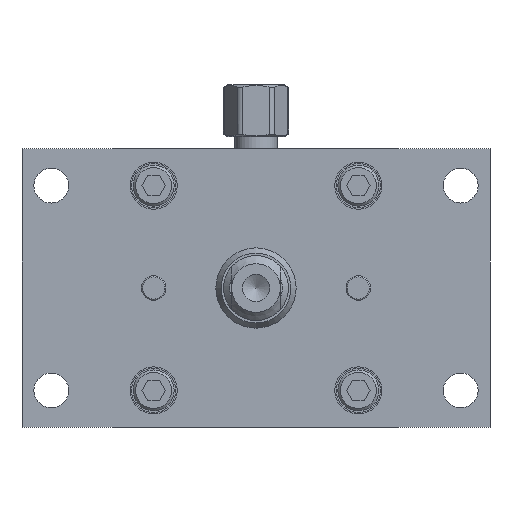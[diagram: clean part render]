
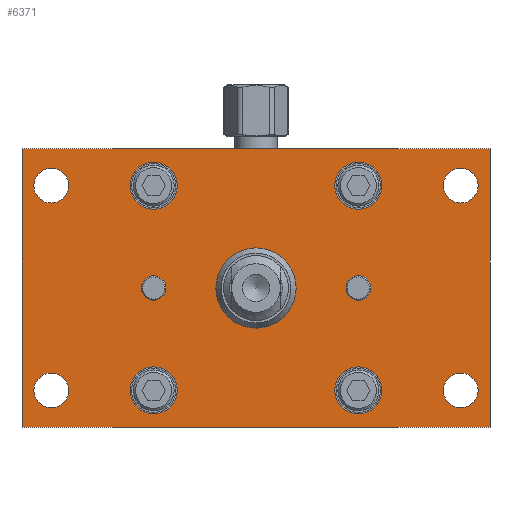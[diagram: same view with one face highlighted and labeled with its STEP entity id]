
A CAD part, front view. The second image highlights one B-rep face of the part: STEP entity #6371.
In plain terms, the highlighted planar face has unit normal (0, -1, 0) as drawn and (0, 0, -1) by its records, which use the part's own axes.
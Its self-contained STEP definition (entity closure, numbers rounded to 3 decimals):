
#184=FACE_BOUND('',#2256,.T.);
#185=FACE_BOUND('',#2257,.T.);
#186=FACE_BOUND('',#2258,.T.);
#187=FACE_BOUND('',#2259,.T.);
#188=FACE_BOUND('',#2260,.T.);
#189=FACE_BOUND('',#2261,.T.);
#190=FACE_BOUND('',#2262,.T.);
#191=FACE_BOUND('',#2263,.T.);
#192=FACE_BOUND('',#2264,.T.);
#193=FACE_BOUND('',#2265,.T.);
#194=FACE_BOUND('',#2266,.T.);
#537=PLANE('',#7208);
#934=LINE('',#10892,#1415);
#937=LINE('',#10897,#1418);
#939=LINE('',#10901,#1420);
#941=LINE('',#10904,#1422);
#1415=VECTOR('',#8716,10.);
#1418=VECTOR('',#8721,10.);
#1420=VECTOR('',#8725,10.);
#1422=VECTOR('',#8729,10.);
#1880=FACE_OUTER_BOUND('',#2255,.T.);
#2255=EDGE_LOOP('',(#5469,#5470,#5471,#5472));
#2256=EDGE_LOOP('',(#5473));
#2257=EDGE_LOOP('',(#5474,#5475));
#2258=EDGE_LOOP('',(#5476,#5477));
#2259=EDGE_LOOP('',(#5478,#5479));
#2260=EDGE_LOOP('',(#5480,#5481));
#2261=EDGE_LOOP('',(#5482,#5483));
#2262=EDGE_LOOP('',(#5484,#5485));
#2263=EDGE_LOOP('',(#5486,#5487));
#2264=EDGE_LOOP('',(#5488,#5489));
#2265=EDGE_LOOP('',(#5490,#5491));
#2266=EDGE_LOOP('',(#5492,#5493));
#2555=CIRCLE('',#7098,9.804);
#2592=CIRCLE('',#7149,3.);
#2593=CIRCLE('',#7150,3.);
#2594=CIRCLE('',#7152,3.);
#2595=CIRCLE('',#7153,3.);
#2596=CIRCLE('',#7155,4.25);
#2597=CIRCLE('',#7156,4.25);
#2598=CIRCLE('',#7158,4.25);
#2599=CIRCLE('',#7159,4.25);
#2600=CIRCLE('',#7161,4.25);
#2601=CIRCLE('',#7162,4.25);
#2602=CIRCLE('',#7164,4.25);
#2603=CIRCLE('',#7165,4.25);
#2609=CIRCLE('',#7176,5.75);
#2610=CIRCLE('',#7177,5.75);
#2614=CIRCLE('',#7184,5.75);
#2615=CIRCLE('',#7185,5.75);
#2619=CIRCLE('',#7192,5.75);
#2620=CIRCLE('',#7193,5.75);
#2624=CIRCLE('',#7200,5.75);
#2625=CIRCLE('',#7201,5.75);
#3115=VERTEX_POINT('',#10685);
#3154=VERTEX_POINT('',#10785);
#3155=VERTEX_POINT('',#10786);
#3156=VERTEX_POINT('',#10791);
#3157=VERTEX_POINT('',#10792);
#3158=VERTEX_POINT('',#10797);
#3159=VERTEX_POINT('',#10798);
#3160=VERTEX_POINT('',#10803);
#3161=VERTEX_POINT('',#10804);
#3162=VERTEX_POINT('',#10809);
#3163=VERTEX_POINT('',#10810);
#3164=VERTEX_POINT('',#10815);
#3165=VERTEX_POINT('',#10816);
#3171=VERTEX_POINT('',#10837);
#3172=VERTEX_POINT('',#10838);
#3176=VERTEX_POINT('',#10852);
#3177=VERTEX_POINT('',#10853);
#3181=VERTEX_POINT('',#10867);
#3182=VERTEX_POINT('',#10868);
#3186=VERTEX_POINT('',#10882);
#3187=VERTEX_POINT('',#10883);
#3188=VERTEX_POINT('',#10890);
#3189=VERTEX_POINT('',#10891);
#3190=VERTEX_POINT('',#10896);
#3191=VERTEX_POINT('',#10900);
#3907=EDGE_CURVE('',#3115,#3115,#2555,.T.);
#3954=EDGE_CURVE('',#3154,#3155,#2592,.T.);
#3955=EDGE_CURVE('',#3155,#3154,#2593,.T.);
#3957=EDGE_CURVE('',#3156,#3157,#2594,.T.);
#3958=EDGE_CURVE('',#3157,#3156,#2595,.T.);
#3960=EDGE_CURVE('',#3158,#3159,#2596,.T.);
#3961=EDGE_CURVE('',#3159,#3158,#2597,.T.);
#3963=EDGE_CURVE('',#3160,#3161,#2598,.T.);
#3964=EDGE_CURVE('',#3161,#3160,#2599,.T.);
#3966=EDGE_CURVE('',#3162,#3163,#2600,.T.);
#3967=EDGE_CURVE('',#3163,#3162,#2601,.T.);
#3969=EDGE_CURVE('',#3164,#3165,#2602,.T.);
#3970=EDGE_CURVE('',#3165,#3164,#2603,.T.);
#3979=EDGE_CURVE('',#3171,#3172,#2609,.T.);
#3980=EDGE_CURVE('',#3172,#3171,#2610,.T.);
#3986=EDGE_CURVE('',#3176,#3177,#2614,.T.);
#3987=EDGE_CURVE('',#3177,#3176,#2615,.T.);
#3993=EDGE_CURVE('',#3181,#3182,#2619,.T.);
#3994=EDGE_CURVE('',#3182,#3181,#2620,.T.);
#4000=EDGE_CURVE('',#3186,#3187,#2624,.T.);
#4001=EDGE_CURVE('',#3187,#3186,#2625,.T.);
#4004=EDGE_CURVE('',#3188,#3189,#934,.T.);
#4007=EDGE_CURVE('',#3190,#3188,#937,.T.);
#4009=EDGE_CURVE('',#3191,#3190,#939,.T.);
#4011=EDGE_CURVE('',#3189,#3191,#941,.T.);
#5469=ORIENTED_EDGE('',*,*,#4011,.F.);
#5470=ORIENTED_EDGE('',*,*,#4004,.F.);
#5471=ORIENTED_EDGE('',*,*,#4007,.F.);
#5472=ORIENTED_EDGE('',*,*,#4009,.F.);
#5473=ORIENTED_EDGE('',*,*,#3907,.T.);
#5474=ORIENTED_EDGE('',*,*,#3954,.T.);
#5475=ORIENTED_EDGE('',*,*,#3955,.T.);
#5476=ORIENTED_EDGE('',*,*,#3957,.T.);
#5477=ORIENTED_EDGE('',*,*,#3958,.T.);
#5478=ORIENTED_EDGE('',*,*,#3960,.T.);
#5479=ORIENTED_EDGE('',*,*,#3961,.T.);
#5480=ORIENTED_EDGE('',*,*,#3963,.T.);
#5481=ORIENTED_EDGE('',*,*,#3964,.T.);
#5482=ORIENTED_EDGE('',*,*,#3966,.T.);
#5483=ORIENTED_EDGE('',*,*,#3967,.T.);
#5484=ORIENTED_EDGE('',*,*,#3969,.T.);
#5485=ORIENTED_EDGE('',*,*,#3970,.T.);
#5486=ORIENTED_EDGE('',*,*,#3979,.T.);
#5487=ORIENTED_EDGE('',*,*,#3980,.T.);
#5488=ORIENTED_EDGE('',*,*,#3986,.T.);
#5489=ORIENTED_EDGE('',*,*,#3987,.T.);
#5490=ORIENTED_EDGE('',*,*,#3993,.T.);
#5491=ORIENTED_EDGE('',*,*,#3994,.T.);
#5492=ORIENTED_EDGE('',*,*,#4000,.T.);
#5493=ORIENTED_EDGE('',*,*,#4001,.T.);
#6371=ADVANCED_FACE('',(#1880,#184,#185,#186,#187,#188,#189,#190,#191,#192,
#193,#194),#537,.F.);
#7098=AXIS2_PLACEMENT_3D('',#10686,#8478,#8479);
#7149=AXIS2_PLACEMENT_3D('',#10787,#8590,#8591);
#7150=AXIS2_PLACEMENT_3D('',#10788,#8592,#8593);
#7152=AXIS2_PLACEMENT_3D('',#10793,#8597,#8598);
#7153=AXIS2_PLACEMENT_3D('',#10794,#8599,#8600);
#7155=AXIS2_PLACEMENT_3D('',#10799,#8604,#8605);
#7156=AXIS2_PLACEMENT_3D('',#10800,#8606,#8607);
#7158=AXIS2_PLACEMENT_3D('',#10805,#8611,#8612);
#7159=AXIS2_PLACEMENT_3D('',#10806,#8613,#8614);
#7161=AXIS2_PLACEMENT_3D('',#10811,#8618,#8619);
#7162=AXIS2_PLACEMENT_3D('',#10812,#8620,#8621);
#7164=AXIS2_PLACEMENT_3D('',#10817,#8625,#8626);
#7165=AXIS2_PLACEMENT_3D('',#10818,#8627,#8628);
#7176=AXIS2_PLACEMENT_3D('',#10839,#8652,#8653);
#7177=AXIS2_PLACEMENT_3D('',#10840,#8654,#8655);
#7184=AXIS2_PLACEMENT_3D('',#10854,#8670,#8671);
#7185=AXIS2_PLACEMENT_3D('',#10855,#8672,#8673);
#7192=AXIS2_PLACEMENT_3D('',#10869,#8688,#8689);
#7193=AXIS2_PLACEMENT_3D('',#10870,#8690,#8691);
#7200=AXIS2_PLACEMENT_3D('',#10884,#8706,#8707);
#7201=AXIS2_PLACEMENT_3D('',#10885,#8708,#8709);
#7208=AXIS2_PLACEMENT_3D('',#10906,#8732,#8733);
#8478=DIRECTION('center_axis',(0.,0.,1.));
#8479=DIRECTION('ref_axis',(1.,0.,0.));
#8590=DIRECTION('center_axis',(0.,0.,1.));
#8591=DIRECTION('ref_axis',(-1.,0.,0.));
#8592=DIRECTION('center_axis',(0.,0.,1.));
#8593=DIRECTION('ref_axis',(-1.,0.,0.));
#8597=DIRECTION('center_axis',(0.,0.,1.));
#8598=DIRECTION('ref_axis',(-1.,0.,0.));
#8599=DIRECTION('center_axis',(0.,0.,1.));
#8600=DIRECTION('ref_axis',(-1.,0.,0.));
#8604=DIRECTION('center_axis',(0.,0.,1.));
#8605=DIRECTION('ref_axis',(-1.,0.,0.));
#8606=DIRECTION('center_axis',(0.,0.,1.));
#8607=DIRECTION('ref_axis',(-1.,0.,0.));
#8611=DIRECTION('center_axis',(0.,0.,1.));
#8612=DIRECTION('ref_axis',(-1.,0.,0.));
#8613=DIRECTION('center_axis',(0.,0.,1.));
#8614=DIRECTION('ref_axis',(-1.,0.,0.));
#8618=DIRECTION('center_axis',(0.,0.,1.));
#8619=DIRECTION('ref_axis',(-1.,0.,0.));
#8620=DIRECTION('center_axis',(0.,0.,1.));
#8621=DIRECTION('ref_axis',(-1.,0.,0.));
#8625=DIRECTION('center_axis',(0.,0.,1.));
#8626=DIRECTION('ref_axis',(-1.,0.,0.));
#8627=DIRECTION('center_axis',(0.,0.,1.));
#8628=DIRECTION('ref_axis',(-1.,0.,0.));
#8652=DIRECTION('center_axis',(0.,0.,1.));
#8653=DIRECTION('ref_axis',(-1.,0.,0.));
#8654=DIRECTION('center_axis',(0.,0.,1.));
#8655=DIRECTION('ref_axis',(-1.,0.,0.));
#8670=DIRECTION('center_axis',(0.,0.,1.));
#8671=DIRECTION('ref_axis',(-1.,0.,0.));
#8672=DIRECTION('center_axis',(0.,0.,1.));
#8673=DIRECTION('ref_axis',(-1.,0.,0.));
#8688=DIRECTION('center_axis',(0.,0.,1.));
#8689=DIRECTION('ref_axis',(-1.,0.,0.));
#8690=DIRECTION('center_axis',(0.,0.,1.));
#8691=DIRECTION('ref_axis',(-1.,0.,0.));
#8706=DIRECTION('center_axis',(0.,0.,1.));
#8707=DIRECTION('ref_axis',(-1.,0.,0.));
#8708=DIRECTION('center_axis',(0.,0.,1.));
#8709=DIRECTION('ref_axis',(-1.,0.,0.));
#8716=DIRECTION('',(-1.,0.,0.));
#8721=DIRECTION('',(0.,1.,0.));
#8725=DIRECTION('',(1.,0.,0.));
#8729=DIRECTION('',(0.,-1.,0.));
#8732=DIRECTION('center_axis',(0.,0.,1.));
#8733=DIRECTION('ref_axis',(1.,0.,0.));
#10685=CARTESIAN_POINT('',(-9.804,0.,0.));
#10686=CARTESIAN_POINT('Origin',(0.,0.,0.));
#10785=CARTESIAN_POINT('',(-28.,0.,0.));
#10786=CARTESIAN_POINT('',(-22.,0.,0.));
#10787=CARTESIAN_POINT('Origin',(-25.,0.,0.));
#10788=CARTESIAN_POINT('Origin',(-25.,0.,0.));
#10791=CARTESIAN_POINT('',(22.,0.,0.));
#10792=CARTESIAN_POINT('',(28.,0.,0.));
#10793=CARTESIAN_POINT('Origin',(25.,0.,0.));
#10794=CARTESIAN_POINT('Origin',(25.,0.,0.));
#10797=CARTESIAN_POINT('',(45.75,25.,0.));
#10798=CARTESIAN_POINT('',(54.25,25.,0.));
#10799=CARTESIAN_POINT('Origin',(50.,25.,0.));
#10800=CARTESIAN_POINT('Origin',(50.,25.,0.));
#10803=CARTESIAN_POINT('',(-54.25,-25.,0.));
#10804=CARTESIAN_POINT('',(-45.75,-25.,0.));
#10805=CARTESIAN_POINT('Origin',(-50.,-25.,0.));
#10806=CARTESIAN_POINT('Origin',(-50.,-25.,0.));
#10809=CARTESIAN_POINT('',(-54.25,25.,0.));
#10810=CARTESIAN_POINT('',(-45.75,25.,0.));
#10811=CARTESIAN_POINT('Origin',(-50.,25.,0.));
#10812=CARTESIAN_POINT('Origin',(-50.,25.,0.));
#10815=CARTESIAN_POINT('',(45.75,-25.,0.));
#10816=CARTESIAN_POINT('',(54.25,-25.,0.));
#10817=CARTESIAN_POINT('Origin',(50.,-25.,0.));
#10818=CARTESIAN_POINT('Origin',(50.,-25.,0.));
#10837=CARTESIAN_POINT('',(19.25,25.,0.));
#10838=CARTESIAN_POINT('',(30.75,25.,0.));
#10839=CARTESIAN_POINT('Origin',(25.,25.,0.));
#10840=CARTESIAN_POINT('Origin',(25.,25.,0.));
#10852=CARTESIAN_POINT('',(-30.75,-25.,0.));
#10853=CARTESIAN_POINT('',(-19.25,-25.,0.));
#10854=CARTESIAN_POINT('Origin',(-25.,-25.,0.));
#10855=CARTESIAN_POINT('Origin',(-25.,-25.,0.));
#10867=CARTESIAN_POINT('',(19.25,-25.,0.));
#10868=CARTESIAN_POINT('',(30.75,-25.,0.));
#10869=CARTESIAN_POINT('Origin',(25.,-25.,0.));
#10870=CARTESIAN_POINT('Origin',(25.,-25.,0.));
#10882=CARTESIAN_POINT('',(-30.75,25.,0.));
#10883=CARTESIAN_POINT('',(-19.25,25.,0.));
#10884=CARTESIAN_POINT('Origin',(-25.,25.,0.));
#10885=CARTESIAN_POINT('Origin',(-25.,25.,0.));
#10890=CARTESIAN_POINT('',(57.15,34.,0.));
#10891=CARTESIAN_POINT('',(-57.15,34.,0.));
#10892=CARTESIAN_POINT('',(57.15,34.,0.));
#10896=CARTESIAN_POINT('',(57.15,-34.,0.));
#10897=CARTESIAN_POINT('',(57.15,-34.,0.));
#10900=CARTESIAN_POINT('',(-57.15,-34.,0.));
#10901=CARTESIAN_POINT('',(-57.15,-34.,0.));
#10904=CARTESIAN_POINT('',(-57.15,34.,0.));
#10906=CARTESIAN_POINT('Origin',(0.,0.,
0.));
